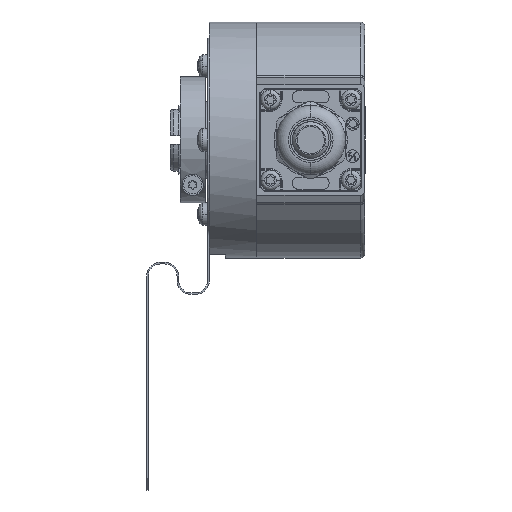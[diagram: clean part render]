
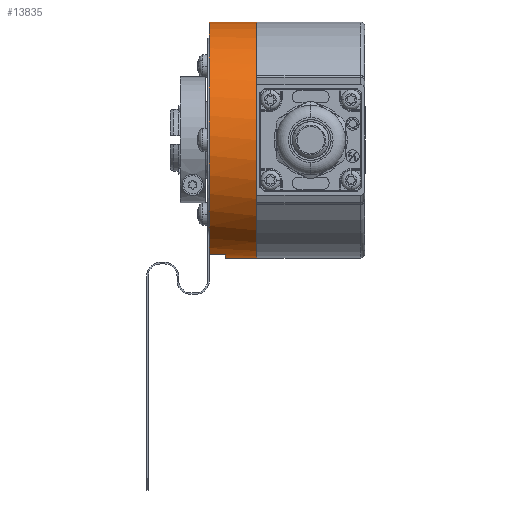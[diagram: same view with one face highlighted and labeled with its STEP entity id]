
A CAD part, front view. The second image highlights one B-rep face of the part: STEP entity #13835.
In plain terms, the highlighted cylindrical face has radius 29 mm (diameter 58 mm), a partial arc.
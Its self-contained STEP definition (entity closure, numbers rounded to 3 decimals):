
#1191 = ORIENTED_EDGE ( 'NONE', *, *, #3845, .T. ) ;
#2151 = EDGE_CURVE ( 'NONE', #5826, #6447, #7419, .T. ) ;
#2244 = EDGE_CURVE ( 'NONE', #3460, #6164, #25315, .T. ) ;
#3460 = VERTEX_POINT ( 'NONE', #27266 ) ;
#3845 = EDGE_CURVE ( 'NONE', #6164, #6447, #11967, .T. ) ;
#3912 = EDGE_CURVE ( 'NONE', #23699, #27257, #11102, .T. ) ;
#4458 = ORIENTED_EDGE ( 'NONE', *, *, #16359, .F. ) ;
#5788 = DIRECTION ( 'NONE',  ( 0., 0., -1. ) ) ;
#5826 = VERTEX_POINT ( 'NONE', #16190 ) ;
#6121 = DIRECTION ( 'NONE',  ( 1., 0., 0. ) ) ;
#6162 = DIRECTION ( 'NONE',  ( 1., 0., 0. ) ) ;
#6164 = VERTEX_POINT ( 'NONE', #26668 ) ;
#6447 = VERTEX_POINT ( 'NONE', #17105 ) ;
#6640 = VECTOR ( 'NONE', #7670, 1000. ) ;
#7199 = EDGE_CURVE ( 'NONE', #23699, #5826, #19288, .T. ) ;
#7419 = CIRCLE ( 'NONE', #23079, 29. ) ;
#7670 = DIRECTION ( 'NONE',  ( -1., 0., 0. ) ) ;
#8300 = CARTESIAN_POINT ( 'NONE',  ( 0.378, 25.423, 0. ) ) ;
#9080 = ORIENTED_EDGE ( 'NONE', *, *, #2151, .F. ) ;
#9165 = CARTESIAN_POINT ( 'NONE',  ( 8.068, 25.423, -29. ) ) ;
#9782 = LINE ( 'NONE', #20163, #6640 ) ;
#10083 = CARTESIAN_POINT ( 'NONE',  ( 8.068, 25.423, 0. ) ) ;
#10406 = CARTESIAN_POINT ( 'NONE',  ( -3.622, 25.423, 0. ) ) ;
#10823 = DIRECTION ( 'NONE',  ( 0., 0., 1. ) ) ;
#11102 = CIRCLE ( 'NONE', #26763, 29. ) ;
#11880 = AXIS2_PLACEMENT_3D ( 'NONE', #10083, #6162, #16803 ) ;
#11967 = LINE ( 'NONE', #9165, #12421 ) ;
#12421 = VECTOR ( 'NONE', #15629, 1000. ) ;
#12784 = DIRECTION ( 'NONE',  ( 1., 0., 0. ) ) ;
#13835 = ADVANCED_FACE ( 'NONE', ( #21293 ), #16946, .T. ) ;
#15629 = DIRECTION ( 'NONE',  ( 1., 0., 0. ) ) ;
#16190 = CARTESIAN_POINT ( 'NONE',  ( 8.068, 25.423, 29. ) ) ;
#16359 = EDGE_CURVE ( 'NONE', #3460, #27257, #9782, .T. ) ;
#16803 = DIRECTION ( 'NONE',  ( 0., 0., -1. ) ) ;
#16946 = CYLINDRICAL_SURFACE ( 'NONE', #11880, 29. ) ;
#17105 = CARTESIAN_POINT ( 'NONE',  ( 8.068, 25.423, -29. ) ) ;
#17328 = ORIENTED_EDGE ( 'NONE', *, *, #2244, .T. ) ;
#18725 = CARTESIAN_POINT ( 'NONE',  ( -3.622, 25.423, 29. ) ) ;
#19288 = LINE ( 'NONE', #21116, #23612 ) ;
#20012 = ORIENTED_EDGE ( 'NONE', *, *, #3912, .T. ) ;
#20163 = CARTESIAN_POINT ( 'NONE',  ( 8.068, 18.423, -28.142 ) ) ;
#20408 = AXIS2_PLACEMENT_3D ( 'NONE', #8300, #12784, #10823 ) ;
#20529 = DIRECTION ( 'NONE',  ( 1., 0., 0. ) ) ;
#20799 = ORIENTED_EDGE ( 'NONE', *, *, #7199, .F. ) ;
#21116 = CARTESIAN_POINT ( 'NONE',  ( 8.068, 25.423, 29. ) ) ;
#21293 = FACE_OUTER_BOUND ( 'NONE', #21803, .T. ) ;
#21803 = EDGE_LOOP ( 'NONE', ( #20799, #20012, #4458, #17328, #1191, #9080 ) ) ;
#22457 = CARTESIAN_POINT ( 'NONE',  ( -3.622, 18.423, -28.142 ) ) ;
#22886 = DIRECTION ( 'NONE',  ( 1., 0., 0. ) ) ;
#23079 = AXIS2_PLACEMENT_3D ( 'NONE', #24717, #22886, #5788 ) ;
#23612 = VECTOR ( 'NONE', #6121, 1000. ) ;
#23699 = VERTEX_POINT ( 'NONE', #18725 ) ;
#24717 = CARTESIAN_POINT ( 'NONE',  ( 8.068, 25.423, 0. ) ) ;
#25315 = CIRCLE ( 'NONE', #20408, 29. ) ;
#26668 = CARTESIAN_POINT ( 'NONE',  ( 0.378, 25.423, -29. ) ) ;
#26763 = AXIS2_PLACEMENT_3D ( 'NONE', #10406, #20529, #27097 ) ;
#27097 = DIRECTION ( 'NONE',  ( 0., 0., -1. ) ) ;
#27257 = VERTEX_POINT ( 'NONE', #22457 ) ;
#27266 = CARTESIAN_POINT ( 'NONE',  ( 0.378, 18.423, -28.142 ) ) ;
